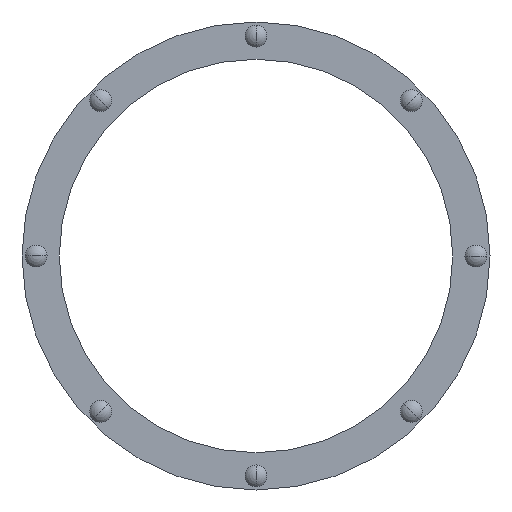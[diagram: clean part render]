
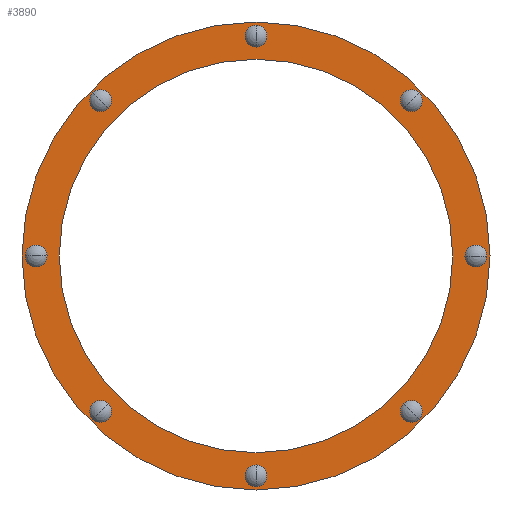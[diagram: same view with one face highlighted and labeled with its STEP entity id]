
A CAD part, front view. The second image highlights one B-rep face of the part: STEP entity #3890.
In plain terms, the highlighted planar face has unit normal (0, -1, 0).
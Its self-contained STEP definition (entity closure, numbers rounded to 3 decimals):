
#1247=CARTESIAN_POINT('',(-181.903,-92.,181.903));
#1248=DIRECTION('',(0.,1.,0.));
#1249=DIRECTION('',(-0.707,0.,0.707));
#1250=AXIS2_PLACEMENT_3D('',#1247,#1248,#1249);
#1252=CARTESIAN_POINT('',(-181.903,-92.,181.903));
#1253=DIRECTION('',(0.,1.,0.));
#1254=DIRECTION('',(0.707,0.,-0.707));
#1255=AXIS2_PLACEMENT_3D('',#1252,#1253,#1254);
#1257=CARTESIAN_POINT('',(0.,-92.,257.25));
#1258=DIRECTION('',(0.,1.,0.));
#1259=DIRECTION('',(0.,0.,1.));
#1260=AXIS2_PLACEMENT_3D('',#1257,#1258,#1259);
#1262=CARTESIAN_POINT('',(0.,-92.,257.25));
#1263=DIRECTION('',(0.,1.,0.));
#1264=DIRECTION('',(0.,0.,-1.));
#1265=AXIS2_PLACEMENT_3D('',#1262,#1263,#1264);
#1267=CARTESIAN_POINT('',(181.903,-92.,181.903));
#1268=DIRECTION('',(0.,1.,0.));
#1269=DIRECTION('',(0.707,0.,0.707));
#1270=AXIS2_PLACEMENT_3D('',#1267,#1268,#1269);
#1272=CARTESIAN_POINT('',(181.903,-92.,181.903));
#1273=DIRECTION('',(0.,1.,0.));
#1274=DIRECTION('',(-0.707,0.,-0.707));
#1275=AXIS2_PLACEMENT_3D('',#1272,#1273,#1274);
#1277=CARTESIAN_POINT('',(257.25,-92.,0.));
#1278=DIRECTION('',(0.,1.,0.));
#1279=DIRECTION('',(1.,0.,0.));
#1280=AXIS2_PLACEMENT_3D('',#1277,#1278,#1279);
#1282=CARTESIAN_POINT('',(257.25,-92.,0.));
#1283=DIRECTION('',(0.,1.,0.));
#1284=DIRECTION('',(-1.,0.,0.));
#1285=AXIS2_PLACEMENT_3D('',#1282,#1283,#1284);
#1287=CARTESIAN_POINT('',(181.903,-92.,-181.903));
#1288=DIRECTION('',(0.,1.,0.));
#1289=DIRECTION('',(0.707,0.,-0.707));
#1290=AXIS2_PLACEMENT_3D('',#1287,#1288,#1289);
#1292=CARTESIAN_POINT('',(181.903,-92.,-181.903));
#1293=DIRECTION('',(0.,1.,0.));
#1294=DIRECTION('',(-0.707,0.,0.707));
#1295=AXIS2_PLACEMENT_3D('',#1292,#1293,#1294);
#1297=CARTESIAN_POINT('',(0.,-92.,-257.25));
#1298=DIRECTION('',(0.,1.,0.));
#1299=DIRECTION('',(0.,0.,-1.));
#1300=AXIS2_PLACEMENT_3D('',#1297,#1298,#1299);
#1302=CARTESIAN_POINT('',(0.,-92.,-257.25));
#1303=DIRECTION('',(0.,1.,0.));
#1304=DIRECTION('',(0.,0.,1.));
#1305=AXIS2_PLACEMENT_3D('',#1302,#1303,#1304);
#1307=CARTESIAN_POINT('',(-181.903,-92.,-181.903));
#1308=DIRECTION('',(0.,1.,0.));
#1309=DIRECTION('',(-0.707,0.,-0.707));
#1310=AXIS2_PLACEMENT_3D('',#1307,#1308,#1309);
#1312=CARTESIAN_POINT('',(-181.903,-92.,-181.903));
#1313=DIRECTION('',(0.,1.,0.));
#1314=DIRECTION('',(0.707,0.,0.707));
#1315=AXIS2_PLACEMENT_3D('',#1312,#1313,#1314);
#1317=CARTESIAN_POINT('',(-257.25,-92.,0.));
#1318=DIRECTION('',(0.,1.,0.));
#1319=DIRECTION('',(-1.,0.,0.));
#1320=AXIS2_PLACEMENT_3D('',#1317,#1318,#1319);
#1322=CARTESIAN_POINT('',(-257.25,-92.,0.));
#1323=DIRECTION('',(0.,1.,0.));
#1324=DIRECTION('',(1.,0.,0.));
#1325=AXIS2_PLACEMENT_3D('',#1322,#1323,#1324);
#1327=CARTESIAN_POINT('',(0.,-92.,0.));
#1328=DIRECTION('',(0.,1.,0.));
#1329=DIRECTION('',(-0.5,0.,0.866));
#1330=AXIS2_PLACEMENT_3D('',#1327,#1328,#1329);
#1332=CARTESIAN_POINT('',(0.,-92.,0.));
#1333=DIRECTION('',(0.,1.,0.));
#1334=DIRECTION('',(-0.866,0.,0.5));
#1335=AXIS2_PLACEMENT_3D('',#1332,#1333,#1334);
#1345=CARTESIAN_POINT('',(0.,-92.,0.));
#1346=DIRECTION('',(0.,1.,0.));
#1347=DIRECTION('',(-0.5,0.,0.866));
#1348=AXIS2_PLACEMENT_3D('',#1345,#1346,#1347);
#1350=CARTESIAN_POINT('',(0.,-92.,0.));
#1351=DIRECTION('',(0.,1.,0.));
#1352=DIRECTION('',(-0.866,0.,0.5));
#1353=AXIS2_PLACEMENT_3D('',#1350,#1351,#1352);
#2744=CARTESIAN_POINT('',(-270.,-92.,0.));
#2745=CARTESIAN_POINT('',(-244.5,-92.,0.));
#2746=VERTEX_POINT('',#2744);
#2747=VERTEX_POINT('',#2745);
#2802=CARTESIAN_POINT('',(-190.919,-92.,-190.919));
#2803=CARTESIAN_POINT('',(-172.888,-92.,-172.888));
#2804=VERTEX_POINT('',#2802);
#2805=VERTEX_POINT('',#2803);
#2860=CARTESIAN_POINT('',(0.,-92.,-270.));
#2861=CARTESIAN_POINT('',(0.,-92.,-244.5));
#2862=VERTEX_POINT('',#2860);
#2863=VERTEX_POINT('',#2861);
#2918=CARTESIAN_POINT('',(190.919,-92.,-190.919));
#2919=CARTESIAN_POINT('',(172.888,-92.,-172.888));
#2920=VERTEX_POINT('',#2918);
#2921=VERTEX_POINT('',#2919);
#2976=CARTESIAN_POINT('',(270.,-92.,0.));
#2977=CARTESIAN_POINT('',(244.5,-92.,0.));
#2978=VERTEX_POINT('',#2976);
#2979=VERTEX_POINT('',#2977);
#3034=CARTESIAN_POINT('',(190.919,-92.,190.919));
#3035=CARTESIAN_POINT('',(172.888,-92.,172.888));
#3036=VERTEX_POINT('',#3034);
#3037=VERTEX_POINT('',#3035);
#3092=CARTESIAN_POINT('',(0.,-92.,270.));
#3093=CARTESIAN_POINT('',(0.,-92.,244.5));
#3094=VERTEX_POINT('',#3092);
#3095=VERTEX_POINT('',#3093);
#3150=CARTESIAN_POINT('',(-190.919,-92.,190.919));
#3151=CARTESIAN_POINT('',(-172.888,-92.,172.888));
#3152=VERTEX_POINT('',#3150);
#3153=VERTEX_POINT('',#3151);
#3166=CARTESIAN_POINT('',(-237.161,-92.,136.925));
#3167=VERTEX_POINT('',#3166);
#3168=CARTESIAN_POINT('',(-199.402,-92.,115.125));
#3170=VERTEX_POINT('',#3168);
#3194=CARTESIAN_POINT('',(-136.925,-92.,237.161));
#3195=VERTEX_POINT('',#3194);
#3196=CARTESIAN_POINT('',(-115.125,-92.,199.402));
#3198=VERTEX_POINT('',#3196);
#3827=CARTESIAN_POINT('',(0.,-92.,0.));
#3828=DIRECTION('',(0.,1.,0.));
#3829=DIRECTION('',(0.866,0.,0.5));
#3830=AXIS2_PLACEMENT_3D('',#3827,#3828,#3829);
#3831=PLANE('',#3830);
#3832=ORIENTED_EDGE('',*,*,#3806,.T.);
#3833=ORIENTED_EDGE('',*,*,#3822,.T.);
#3834=EDGE_LOOP('',(#3832,#3833));
#3835=FACE_OUTER_BOUND('',#3834,.F.);
#3837=ORIENTED_EDGE('',*,*,#3836,.F.);
#3839=ORIENTED_EDGE('',*,*,#3838,.F.);
#3840=EDGE_LOOP('',(#3837,#3839));
#3841=FACE_BOUND('',#3840,.F.);
#3843=ORIENTED_EDGE('',*,*,#3842,.F.);
#3845=ORIENTED_EDGE('',*,*,#3844,.F.);
#3846=EDGE_LOOP('',(#3843,#3845));
#3847=FACE_BOUND('',#3846,.F.);
#3849=ORIENTED_EDGE('',*,*,#3848,.F.);
#3851=ORIENTED_EDGE('',*,*,#3850,.F.);
#3852=EDGE_LOOP('',(#3849,#3851));
#3853=FACE_BOUND('',#3852,.F.);
#3855=ORIENTED_EDGE('',*,*,#3854,.F.);
#3857=ORIENTED_EDGE('',*,*,#3856,.F.);
#3858=EDGE_LOOP('',(#3855,#3857));
#3859=FACE_BOUND('',#3858,.F.);
#3861=ORIENTED_EDGE('',*,*,#3860,.F.);
#3863=ORIENTED_EDGE('',*,*,#3862,.F.);
#3864=EDGE_LOOP('',(#3861,#3863));
#3865=FACE_BOUND('',#3864,.F.);
#3867=ORIENTED_EDGE('',*,*,#3866,.F.);
#3869=ORIENTED_EDGE('',*,*,#3868,.F.);
#3870=EDGE_LOOP('',(#3867,#3869));
#3871=FACE_BOUND('',#3870,.F.);
#3873=ORIENTED_EDGE('',*,*,#3872,.F.);
#3875=ORIENTED_EDGE('',*,*,#3874,.F.);
#3876=EDGE_LOOP('',(#3873,#3875));
#3877=FACE_BOUND('',#3876,.F.);
#3879=ORIENTED_EDGE('',*,*,#3878,.F.);
#3881=ORIENTED_EDGE('',*,*,#3880,.F.);
#3882=EDGE_LOOP('',(#3879,#3881));
#3883=FACE_BOUND('',#3882,.F.);
#3885=ORIENTED_EDGE('',*,*,#3884,.F.);
#3887=ORIENTED_EDGE('',*,*,#3886,.F.);
#3888=EDGE_LOOP('',(#3885,#3887));
#3889=FACE_BOUND('',#3888,.F.);
#3890=ADVANCED_FACE('',(#3835,#3841,#3847,#3853,#3859,#3865,#3871,#3877,#3883,
#3889),#3831,.F.);
#1251=CIRCLE('',#1250,12.75);
#1256=CIRCLE('',#1255,12.75);
#1261=CIRCLE('',#1260,12.75);
#1266=CIRCLE('',#1265,12.75);
#1271=CIRCLE('',#1270,12.75);
#1276=CIRCLE('',#1275,12.75);
#1281=CIRCLE('',#1280,12.75);
#1286=CIRCLE('',#1285,12.75);
#1291=CIRCLE('',#1290,12.75);
#1296=CIRCLE('',#1295,12.75);
#1301=CIRCLE('',#1300,12.75);
#1306=CIRCLE('',#1305,12.75);
#1311=CIRCLE('',#1310,12.75);
#1316=CIRCLE('',#1315,12.75);
#1321=CIRCLE('',#1320,12.75);
#1326=CIRCLE('',#1325,12.75);
#1331=CIRCLE('',#1330,273.85);
#1336=CIRCLE('',#1335,273.85);
#1349=CIRCLE('',#1348,230.25);
#1354=CIRCLE('',#1353,230.25);
#3806=EDGE_CURVE('',#3195,#3167,#1331,.T.);
#3822=EDGE_CURVE('',#3167,#3195,#1336,.T.);
#3836=EDGE_CURVE('',#3152,#3153,#1251,.T.);
#3838=EDGE_CURVE('',#3153,#3152,#1256,.T.);
#3842=EDGE_CURVE('',#3094,#3095,#1261,.T.);
#3844=EDGE_CURVE('',#3095,#3094,#1266,.T.);
#3848=EDGE_CURVE('',#3036,#3037,#1271,.T.);
#3850=EDGE_CURVE('',#3037,#3036,#1276,.T.);
#3854=EDGE_CURVE('',#2978,#2979,#1281,.T.);
#3856=EDGE_CURVE('',#2979,#2978,#1286,.T.);
#3860=EDGE_CURVE('',#2920,#2921,#1291,.T.);
#3862=EDGE_CURVE('',#2921,#2920,#1296,.T.);
#3866=EDGE_CURVE('',#2862,#2863,#1301,.T.);
#3868=EDGE_CURVE('',#2863,#2862,#1306,.T.);
#3872=EDGE_CURVE('',#2804,#2805,#1311,.T.);
#3874=EDGE_CURVE('',#2805,#2804,#1316,.T.);
#3878=EDGE_CURVE('',#2746,#2747,#1321,.T.);
#3880=EDGE_CURVE('',#2747,#2746,#1326,.T.);
#3884=EDGE_CURVE('',#3198,#3170,#1349,.T.);
#3886=EDGE_CURVE('',#3170,#3198,#1354,.T.);
